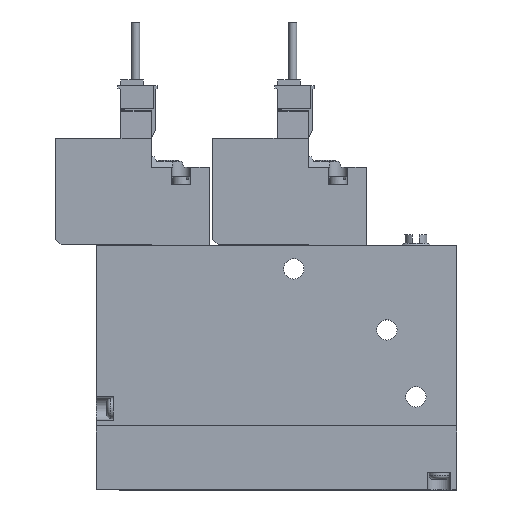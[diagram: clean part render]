
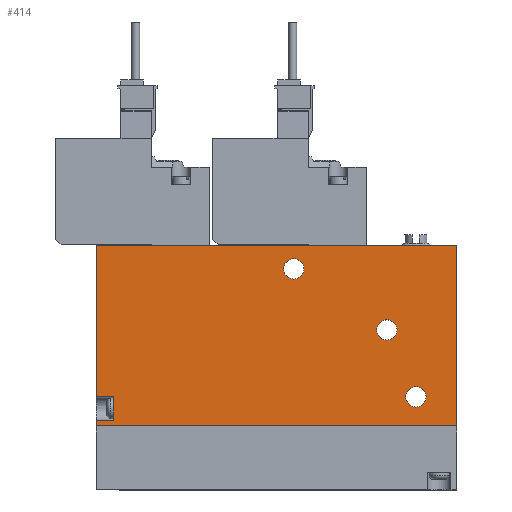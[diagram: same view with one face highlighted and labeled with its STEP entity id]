
A CAD part, top view. The second image highlights one B-rep face of the part: STEP entity #414.
In plain terms, the highlighted planar face has unit normal (0, 0, 1).
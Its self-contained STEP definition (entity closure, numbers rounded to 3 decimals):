
#414=ADVANCED_FACE('',(#810,#811,#812,#813),#814,.T.);
#810=FACE_OUTER_BOUND('',#1343,.T.);
#811=FACE_BOUND('',#1344,.T.);
#812=FACE_BOUND('',#1345,.T.);
#813=FACE_BOUND('',#1346,.T.);
#814=PLANE('',#1347);
#1343=EDGE_LOOP('',(#2647,#2648,#2649,#2650,#2651,#2652,#2653,#2654));
#1344=EDGE_LOOP('',(#2655));
#1345=EDGE_LOOP('',(#2656));
#1346=EDGE_LOOP('',(#2657));
#1347=AXIS2_PLACEMENT_3D('',#2658,#2659,#2660);
#2647=ORIENTED_EDGE('',*,*,#3733,.T.);
#2648=ORIENTED_EDGE('',*,*,#3728,.F.);
#2649=ORIENTED_EDGE('',*,*,#3734,.T.);
#2650=ORIENTED_EDGE('',*,*,#3735,.T.);
#2651=ORIENTED_EDGE('',*,*,#3736,.T.);
#2652=ORIENTED_EDGE('',*,*,#3737,.T.);
#2653=ORIENTED_EDGE('',*,*,#3722,.T.);
#2654=ORIENTED_EDGE('',*,*,#3738,.T.);
#2655=ORIENTED_EDGE('',*,*,#3739,.F.);
#2656=ORIENTED_EDGE('',*,*,#3740,.F.);
#2657=ORIENTED_EDGE('',*,*,#3707,.F.);
#2658=CARTESIAN_POINT('',(0.0,0.0,5.0));
#2659=DIRECTION('',(0.0,0.0,1.0));
#2660=DIRECTION('',(1.0,0.0,0.0));
#3707=EDGE_CURVE('',#4490,#4490,#4491,.T.);
#3722=EDGE_CURVE('',#4515,#4513,#4516,.T.);
#3728=EDGE_CURVE('',#4525,#4521,#4527,.T.);
#3733=EDGE_CURVE('',#4536,#4521,#4537,.T.);
#3734=EDGE_CURVE('',#4525,#4538,#4539,.T.);
#3735=EDGE_CURVE('',#4538,#4540,#4541,.T.);
#3736=EDGE_CURVE('',#4540,#4542,#4543,.T.);
#3737=EDGE_CURVE('',#4542,#4515,#4544,.T.);
#3738=EDGE_CURVE('',#4513,#4536,#4545,.T.);
#3739=EDGE_CURVE('',#4546,#4546,#4547,.T.);
#3740=EDGE_CURVE('',#4548,#4548,#4549,.T.);
#4490=VERTEX_POINT('',#5784);
#4491=CIRCLE('',#5785,1.75);
#4513=VERTEX_POINT('',#5814);
#4515=VERTEX_POINT('',#5817);
#4516=LINE('',#5818,#5819);
#4521=VERTEX_POINT('',#5825);
#4525=VERTEX_POINT('',#5831);
#4527=LINE('',#5834,#5835);
#4536=VERTEX_POINT('',#5848);
#4537=LINE('',#5849,#5850);
#4538=VERTEX_POINT('',#5851);
#4539=LINE('',#5852,#5853);
#4540=VERTEX_POINT('',#5854);
#4541=LINE('',#5855,#5856);
#4542=VERTEX_POINT('',#5857);
#4543=LINE('',#5858,#5859);
#4544=LINE('',#5860,#5861);
#4545=LINE('',#5862,#5863);
#4546=VERTEX_POINT('',#5864);
#4547=CIRCLE('',#5865,1.75);
#4548=VERTEX_POINT('',#5866);
#4549=CIRCLE('',#5867,1.75);
#5784=CARTESIAN_POINT('',(35.75,27.0,5.0));
#5785=AXIS2_PLACEMENT_3D('',#6797,#6798,#6799);
#5814=CARTESIAN_POINT('',(62.0,31.0,5.0));
#5817=CARTESIAN_POINT('',(62.0,0.0,5.0));
#5818=CARTESIAN_POINT('',(62.0,0.0,5.0));
#5819=VECTOR('',#6826,1.0);
#5825=CARTESIAN_POINT('',(0.0,5.0,5.0));
#5831=CARTESIAN_POINT('',(3.0,5.0,5.0));
#5834=CARTESIAN_POINT('',(3.0,5.0,5.0));
#5835=VECTOR('',#6834,1.0);
#5848=CARTESIAN_POINT('',(0.0,31.0,5.0));
#5849=CARTESIAN_POINT('',(0.0,31.0,5.0));
#5850=VECTOR('',#6839,1.0);
#5851=CARTESIAN_POINT('',(3.0,1.0,5.0));
#5852=CARTESIAN_POINT('',(3.0,5.0,5.0));
#5853=VECTOR('',#6840,1.0);
#5854=CARTESIAN_POINT('',(0.0,1.0,5.0));
#5855=CARTESIAN_POINT('',(3.0,1.0,5.0));
#5856=VECTOR('',#6841,1.0);
#5857=CARTESIAN_POINT('',(0.0,0.0,5.0));
#5858=CARTESIAN_POINT('',(0.0,31.0,5.0));
#5859=VECTOR('',#6842,1.0);
#5860=CARTESIAN_POINT('',(0.0,0.0,5.0));
#5861=VECTOR('',#6843,1.0);
#5862=CARTESIAN_POINT('',(62.0,31.0,5.0));
#5863=VECTOR('',#6844,1.0);
#5864=CARTESIAN_POINT('',(56.75,5.0,5.0));
#5865=AXIS2_PLACEMENT_3D('',#6845,#6846,#6847);
#5866=CARTESIAN_POINT('',(51.75,16.5,5.0));
#5867=AXIS2_PLACEMENT_3D('',#6848,#6849,#6850);
#6797=CARTESIAN_POINT('',(34.0,27.0,5.0));
#6798=DIRECTION('',(0.0,0.0,1.0));
#6799=DIRECTION('',(1.0,0.0,0.0));
#6826=DIRECTION('',(0.0,1.0,0.0));
#6834=DIRECTION('',(-1.0,0.0,0.0));
#6839=DIRECTION('',(0.0,-1.0,0.0));
#6840=DIRECTION('',(0.0,-1.0,0.0));
#6841=DIRECTION('',(-1.0,0.0,0.0));
#6842=DIRECTION('',(0.0,-1.0,0.0));
#6843=DIRECTION('',(1.0,0.0,0.0));
#6844=DIRECTION('',(-1.0,0.0,0.0));
#6845=CARTESIAN_POINT('',(55.0,5.0,5.0));
#6846=DIRECTION('',(0.0,0.0,1.0));
#6847=DIRECTION('',(1.0,0.0,0.0));
#6848=CARTESIAN_POINT('',(50.0,16.5,5.0));
#6849=DIRECTION('',(0.0,0.0,1.0));
#6850=DIRECTION('',(1.0,0.0,0.0));
